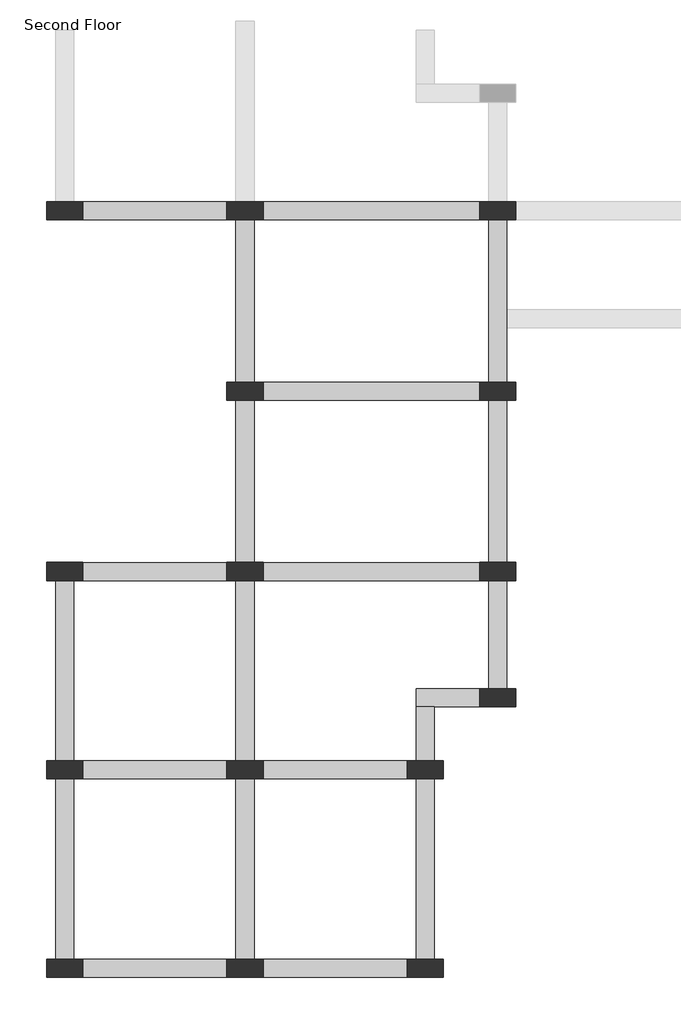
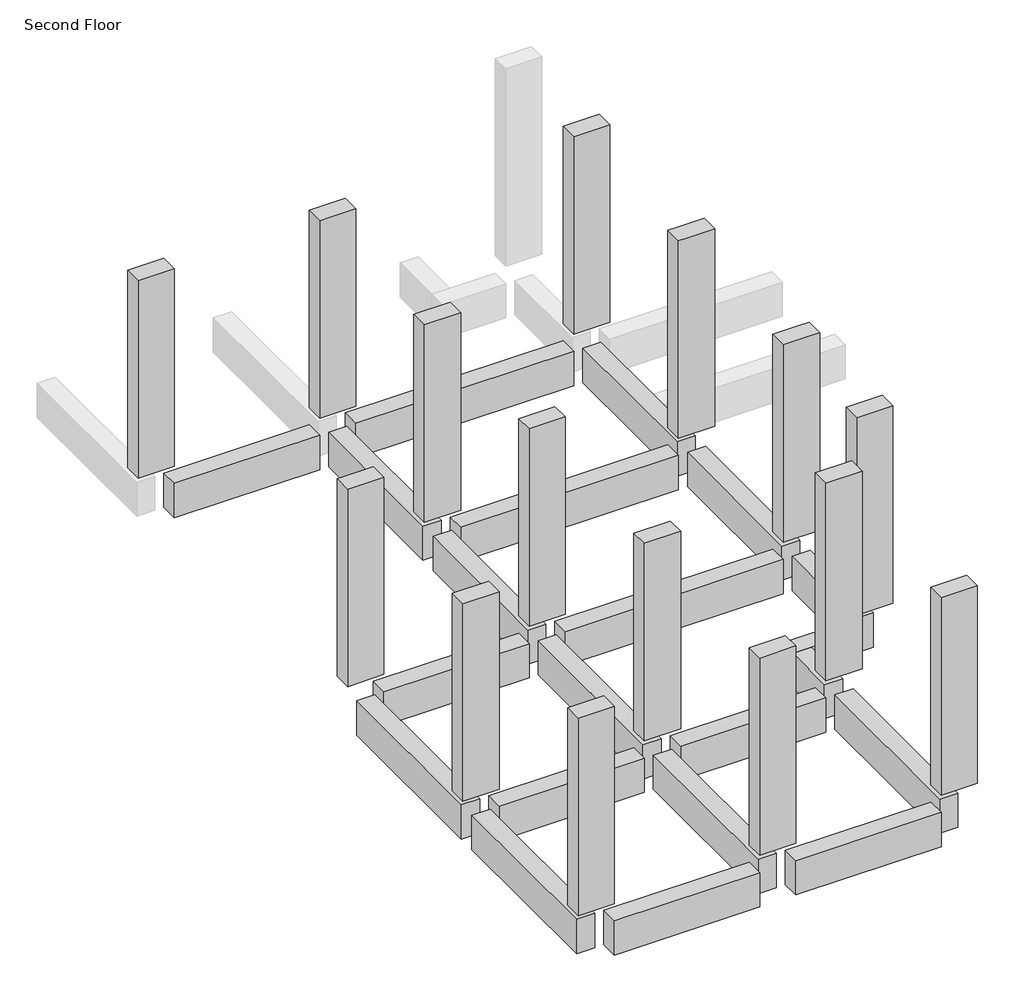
# One storey, part 1 of 2: 21 beams, 17 columns.
"""IFC4 building model written with IfcOpenShell, lengths in millimetres."""

from ifc_helpers import new_model, si_unit, frame, origin, place, context, project, spatial, polyline, outline, extrude, faceted_brep, element, save

model = new_model("IFC4")

# Units and contexts
model_context = context("Model", 3, world=origin())
ifc_project = project(units=[si_unit("LENGTHUNIT", "METRE", prefix="MILLI")], contexts=[model_context])

# Site, building, storey
site = spatial("IfcSite", under=ifc_project)
building = spatial("IfcBuilding", under=site)
storey = spatial("IfcBuildingStorey", under=building, Name="Second Floor", Elevation=3810.0)

# Beams
placement = place(None, origin())
element("IfcBeam", 1, ObjectType="Concrete-Rectangular Beam : 12 x 24", at=placement, inside=storey, context=model_context, shape_type="Brep", body=[
    faceted_brep([(-7905.1554735, 7484.1867088, 3505.2), (-8209.9554735, 7484.1867088, 3505.2), (-8209.9554735, 4740.9867088, 3505.2), (-7905.1554735, 4740.9867088, 3505.2), (-7905.1554735, 5655.3867088, 3505.2), (-7905.1554735, 5960.1867088, 3505.2), (-8209.9554735, 7484.1867088, 2895.6), (-8209.9554735, 4740.9867088, 2895.6), (-7905.1554735, 7484.1867088, 2895.6), (-7905.1554735, 5960.1867088, 2895.6), (-7905.1554735, 5655.3867088, 2895.6), (-7905.1554735, 4740.9867088, 2895.6)], [[[0, 1, 2, 3, 4, 5]], [[1, 6, 7, 2]], [[6, 8, 9, 10, 11, 7]], [[8, 0, 5, 4, 3, 11, 10, 9]], [[6, 1, 0, 8]], [[3, 2, 7, 11]]]),
])
element("IfcBeam", 2, ObjectType="Concrete-Rectangular Beam : 12 x 24", at=placement, inside=storey, context=model_context, shape_type="SweptSolid", body=[
    extrude(outline(polyline([(-8209.9554735, 4436.1867088), (-7905.1554735, 4436.1867088), (-7905.1554735, 1692.9867088), (-8209.9554735, 1692.9867088), (-8209.9554735, 4436.1867088)])), frame((0.0, 0.0, 2895.6), z_axis=(0.0, 0.0, 1.0), x_axis=(1.0, 0.0, 0.0)), (0.0, 0.0, 1.0), 609.6),
])
element("IfcBeam", 3, ObjectType="Concrete-Rectangular Beam : 12 x 24", at=placement, inside=storey, context=model_context, shape_type="SweptSolid", body=[
    extrude(outline(polyline([(-8209.9554735, 1388.1867088), (-7905.1554735, 1388.1867088), (-7905.1554735, -440.6132912), (-8209.9554735, -440.6132912), (-8209.9554735, 1388.1867088)])), frame((0.0, 0.0, 2895.6), z_axis=(0.0, 0.0, 1.0), x_axis=(1.0, 0.0, 0.0)), (0.0, 0.0, 1.0), 609.6),
])
element("IfcBeam", 4, ObjectType="Concrete-Rectangular Beam : 12 x 24", at=placement, inside=storey, context=model_context, shape_type="Brep", body=[
    faceted_brep([(-9429.1554735, -440.6132912, 3505.2), (-9429.1554735, -745.4132912, 3505.2), (-9124.3554735, -745.4132912, 3505.2), (-8362.3554735, -745.4132912, 3505.2), (-8362.3554735, -440.6132912, 3505.2), (-9429.1554735, -440.6132912, 2895.6), (-8362.3554735, -440.6132912, 2895.6), (-9429.1554735, -745.4132912, 2895.6), (-8362.3554735, -745.4132912, 2895.6), (-9124.3554735, -745.4132912, 2895.6)], [[[0, 1, 2, 3, 4]], [[5, 0, 4, 6]], [[7, 5, 6, 8, 9]], [[1, 7, 9, 8, 3, 2]], [[4, 3, 8, 6]], [[1, 0, 5, 7]]]),
])
element("IfcBeam", 5, ObjectType="Concrete-Rectangular Beam : 12 x 24", at=placement, inside=storey, context=model_context, shape_type="SweptSolid", body=[
    extrude(outline(polyline([(-9429.1554735, -745.4132912), (-9124.3554735, -745.4132912), (-9124.3554735, -1659.8132912), (-9429.1554735, -1659.8132912), (-9429.1554735, -745.4132912)])), frame((0.0, 0.0, 2895.6), z_axis=(0.0, 0.0, 1.0), x_axis=(1.0, 0.0, 0.0)), (0.0, 0.0, 1.0), 609.6),
])
element("IfcBeam", 6, ObjectType="Concrete-Rectangular Beam : 12 x 24", at=placement, inside=storey, context=model_context, shape_type="SweptSolid", body=[
    extrude(outline(polyline([(-9429.1554735, -1964.6132912), (-9124.3554735, -1964.6132912), (-9124.3554735, -5012.6132912), (-9429.1554735, -5012.6132912), (-9429.1554735, -1964.6132912)])), frame((0.0, 0.0, 2895.6), z_axis=(0.0, 0.0, 1.0), x_axis=(1.0, 0.0, 0.0)), (0.0, 0.0, 1.0), 609.6),
])
element("IfcBeam", 7, ObjectType="Concrete-Rectangular Beam : 12 x 24", at=placement, inside=storey, context=model_context, shape_type="SweptSolid", body=[
    extrude(outline(polyline([(-12019.9554735, -5317.4132912), (-12019.9554735, -5012.6132912), (-9581.5554735, -5012.6132912), (-9581.5554735, -5317.4132912), (-12019.9554735, -5317.4132912)])), frame((0.0, 0.0, 2895.6), z_axis=(0.0, 0.0, 1.0), x_axis=(1.0, 0.0, 0.0)), (0.0, 0.0, 1.0), 609.6),
])
element("IfcBeam", 8, ObjectType="Concrete-Rectangular Beam : 12 x 24", at=placement, inside=storey, context=model_context, shape_type="SweptSolid", body=[
    extrude(outline(polyline([(-12629.5554735, -5012.6132912), (-12629.5554735, -5317.4132912), (-15067.9554735, -5317.4132912), (-15067.9554735, -5012.6132912), (-12629.5554735, -5012.6132912)])), frame((0.0, 0.0, 2895.6), z_axis=(0.0, 0.0, 1.0), x_axis=(1.0, 0.0, 0.0)), (0.0, 0.0, 1.0), 609.6),
])
element("IfcBeam", 9, ObjectType="Concrete-Rectangular Beam : 12 x 24", at=placement, inside=storey, context=model_context, shape_type="SweptSolid", body=[
    extrude(outline(polyline([(-15220.3554735, -5012.6132912), (-15525.1554735, -5012.6132912), (-15525.1554735, -1964.6132912), (-15220.3554735, -1964.6132912), (-15220.3554735, -5012.6132912)])), frame((0.0, 0.0, 2895.6), z_axis=(0.0, 0.0, 1.0), x_axis=(1.0, 0.0, 0.0)), (0.0, 0.0, 1.0), 609.6),
])
element("IfcBeam", 10, ObjectType="Concrete-Rectangular Beam : 12 x 24", at=placement, inside=storey, context=model_context, shape_type="SweptSolid", body=[
    extrude(outline(polyline([(-15220.3554735, -1659.8132912), (-15525.1554735, -1659.8132912), (-15525.1554735, 1388.1867088), (-15220.3554735, 1388.1867088), (-15220.3554735, -1659.8132912)])), frame((0.0, 0.0, 2895.6), z_axis=(0.0, 0.0, 1.0), x_axis=(1.0, 0.0, 0.0)), (0.0, 0.0, 1.0), 609.6),
])
element("IfcBeam", 11, ObjectType="Concrete-Rectangular Beam : 12 x 24", at=placement, inside=storey, context=model_context, shape_type="SweptSolid", body=[
    extrude(outline(polyline([(-12477.1554735, 7484.1867088), (-12172.3554735, 7484.1867088), (-12172.3554735, 4740.9867088), (-12477.1554735, 4740.9867088), (-12477.1554735, 7484.1867088)])), frame((0.0, 0.0, 2895.6), z_axis=(0.0, 0.0, 1.0), x_axis=(1.0, 0.0, 0.0)), (0.0, 0.0, 1.0), 609.6),
])
element("IfcBeam", 12, ObjectType="Concrete-Rectangular Beam : 12 x 24", at=placement, inside=storey, context=model_context, shape_type="SweptSolid", body=[
    extrude(outline(polyline([(-12477.1554735, 4436.1867088), (-12172.3554735, 4436.1867088), (-12172.3554735, 1692.9867088), (-12477.1554735, 1692.9867088), (-12477.1554735, 4436.1867088)])), frame((0.0, 0.0, 2895.6), z_axis=(0.0, 0.0, 1.0), x_axis=(1.0, 0.0, 0.0)), (0.0, 0.0, 1.0), 609.6),
])
element("IfcBeam", 13, ObjectType="Concrete-Rectangular Beam : 12 x 24", at=placement, inside=storey, context=model_context, shape_type="SweptSolid", body=[
    extrude(outline(polyline([(-12477.1554735, 1388.1867088), (-12172.3554735, 1388.1867088), (-12172.3554735, -1659.8132912), (-12477.1554735, -1659.8132912), (-12477.1554735, 1388.1867088)])), frame((0.0, 0.0, 2895.6), z_axis=(0.0, 0.0, 1.0), x_axis=(1.0, 0.0, 0.0)), (0.0, 0.0, 1.0), 609.6),
])
element("IfcBeam", 14, ObjectType="Concrete-Rectangular Beam : 12 x 24", at=placement, inside=storey, context=model_context, shape_type="SweptSolid", body=[
    extrude(outline(polyline([(-12172.3554735, -5012.6132912), (-12477.1554735, -5012.6132912), (-12477.1554735, -1964.6132912), (-12172.3554735, -1964.6132912), (-12172.3554735, -5012.6132912)])), frame((0.0, 0.0, 2895.6), z_axis=(0.0, 0.0, 1.0), x_axis=(1.0, 0.0, 0.0)), (0.0, 0.0, 1.0), 609.6),
])
element("IfcBeam", 15, ObjectType="Concrete-Rectangular Beam : 12 x 24", at=placement, inside=storey, context=model_context, shape_type="SweptSolid", body=[
    extrude(outline(polyline([(-15067.9554735, 7484.1867088), (-15067.9554735, 7788.9867088), (-12629.5554735, 7788.9867088), (-12629.5554735, 7484.1867088), (-15067.9554735, 7484.1867088)])), frame((0.0, 0.0, 2895.6), z_axis=(0.0, 0.0, 1.0), x_axis=(1.0, 0.0, 0.0)), (0.0, 0.0, 1.0), 609.6),
])
element("IfcBeam", 16, ObjectType="Concrete-Rectangular Beam : 12 x 24", at=placement, inside=storey, context=model_context, shape_type="SweptSolid", body=[
    extrude(outline(polyline([(-12019.9554735, 1388.1867088), (-12019.9554735, 1692.9867088), (-8362.3554735, 1692.9867088), (-8362.3554735, 1388.1867088), (-12019.9554735, 1388.1867088)])), frame((0.0, 0.0, 2895.6), z_axis=(0.0, 0.0, 1.0), x_axis=(1.0, 0.0, 0.0)), (0.0, 0.0, 1.0), 609.6),
])
element("IfcBeam", 17, ObjectType="Concrete-Rectangular Beam : 12 x 24", at=placement, inside=storey, context=model_context, shape_type="SweptSolid", body=[
    extrude(outline(polyline([(-12629.5554735, -1659.8132912), (-12629.5554735, -1964.6132912), (-15067.9554735, -1964.6132912), (-15067.9554735, -1659.8132912), (-12629.5554735, -1659.8132912)])), frame((0.0, 0.0, 2895.6), z_axis=(0.0, 0.0, 1.0), x_axis=(1.0, 0.0, 0.0)), (0.0, 0.0, 1.0), 609.6),
])
element("IfcBeam", 18, ObjectType="Concrete-Rectangular Beam : 12 x 24", at=placement, inside=storey, context=model_context, shape_type="SweptSolid", body=[
    extrude(outline(polyline([(-12629.5554735, 1692.9867088), (-12629.5554735, 1388.1867088), (-15067.9554735, 1388.1867088), (-15067.9554735, 1692.9867088), (-12629.5554735, 1692.9867088)])), frame((0.0, 0.0, 2895.6), z_axis=(0.0, 0.0, 1.0), x_axis=(1.0, 0.0, 0.0)), (0.0, 0.0, 1.0), 609.6),
])
element("IfcBeam", 19, ObjectType="Concrete-Rectangular Beam : 12 x 24", at=placement, inside=storey, context=model_context, shape_type="SweptSolid", body=[
    extrude(outline(polyline([(-12019.9554735, -1964.6132912), (-12019.9554735, -1659.8132912), (-9581.5554735, -1659.8132912), (-9581.5554735, -1964.6132912), (-12019.9554735, -1964.6132912)])), frame((0.0, 0.0, 2895.6), z_axis=(0.0, 0.0, 1.0), x_axis=(1.0, 0.0, 0.0)), (0.0, 0.0, 1.0), 609.6),
])
element("IfcBeam", 20, ObjectType="Concrete-Rectangular Beam : 12 x 24", at=placement, inside=storey, context=model_context, shape_type="SweptSolid", body=[
    extrude(outline(polyline([(-8362.3554735, 7788.9867088), (-8362.3554735, 7484.1867088), (-12019.9554735, 7484.1867088), (-12019.9554735, 7788.9867088), (-8362.3554735, 7788.9867088)])), frame((0.0, 0.0, 2895.6), z_axis=(0.0, 0.0, 1.0), x_axis=(1.0, 0.0, 0.0)), (0.0, 0.0, 1.0), 609.6),
])
element("IfcBeam", 21, ObjectType="Concrete-Rectangular Beam : 12 x 24", at=placement, inside=storey, context=model_context, shape_type="SweptSolid", body=[
    extrude(outline(polyline([(-12019.9554735, 4436.1867088), (-12019.9554735, 4740.9867088), (-8362.3554735, 4740.9867088), (-8362.3554735, 4436.1867088), (-12019.9554735, 4436.1867088)])), frame((0.0, 0.0, 2895.6), z_axis=(0.0, 0.0, 1.0), x_axis=(1.0, 0.0, 0.0)), (0.0, 0.0, 1.0), 609.6),
])

# Columns
element("IfcColumn", 22, ObjectType="Concrete-Rectangular-Column : 12 x 24", at=placement, inside=storey, context=model_context, shape_type="Brep", body=[
    faceted_brep([(-8362.3554735, 7788.9867088, 3810.0), (-7752.7554735, 7788.9867088, 3810.0), (-7752.7554735, 7484.1867088, 3810.0), (-8362.3554735, 7484.1867088, 3810.0), (-8362.3554735, 7788.9867088, 7315.2), (-8209.9554735, 7788.9867088, 7315.2), (-7905.1554735, 7788.9867088, 7315.2), (-7752.7554735, 7788.9867088, 7315.2), (-7752.7554735, 7788.9867088, 6705.6), (-8362.3554735, 7788.9867088, 6705.6), (-7752.7554735, 7484.1867088, 7315.2), (-7752.7554735, 7484.1867088, 6705.6), (-7905.1554735, 7484.1867088, 7315.2), (-8209.9554735, 7484.1867088, 7315.2), (-8362.3554735, 7484.1867088, 7315.2), (-8362.3554735, 7484.1867088, 6705.6)], [[[0, 1, 2, 3]], [[4, 5, 6, 7, 8, 1, 0, 9]], [[7, 10, 11, 2, 1, 8]], [[10, 12, 13, 14, 15, 3, 2, 11]], [[14, 4, 9, 0, 3, 15]], [[4, 14, 13, 12, 10, 7, 6, 5]]]),
])
element("IfcColumn", 23, ObjectType="Concrete-Rectangular-Column : 12 x 24", at=placement, inside=storey, context=model_context, shape_type="Brep", body=[
    faceted_brep([(-15677.5554735, 7788.9867088, 3810.0), (-15067.9554735, 7788.9867088, 3810.0), (-15067.9554735, 7484.1867088, 3810.0), (-15677.5554735, 7484.1867088, 3810.0), (-15677.5554735, 7788.9867088, 7315.2), (-15525.1554735, 7788.9867088, 7315.2), (-15220.3554735, 7788.9867088, 7315.2), (-15067.9554735, 7788.9867088, 7315.2), (-15067.9554735, 7788.9867088, 6705.6), (-15067.9554735, 7484.1867088, 7315.2), (-15067.9554735, 7484.1867088, 6705.6), (-15677.5554735, 7484.1867088, 7315.2)], [[[0, 1, 2, 3]], [[4, 5, 6, 7, 8, 1, 0]], [[7, 9, 10, 2, 1, 8]], [[9, 11, 3, 2, 10]], [[11, 4, 0, 3]], [[4, 11, 9, 7, 6, 5]]]),
])
element("IfcColumn", 24, ObjectType="Concrete-Rectangular-Column : 12 x 24", at=placement, inside=storey, context=model_context, shape_type="Brep", body=[
    faceted_brep([(-12629.5554735, 7788.9867088, 3810.0), (-12019.9554735, 7788.9867088, 3810.0), (-12019.9554735, 7484.1867088, 3810.0), (-12629.5554735, 7484.1867088, 3810.0), (-12629.5554735, 7788.9867088, 7315.2), (-12477.1554735, 7788.9867088, 7315.2), (-12172.3554735, 7788.9867088, 7315.2), (-12019.9554735, 7788.9867088, 7315.2), (-12019.9554735, 7788.9867088, 6705.6), (-12629.5554735, 7788.9867088, 6705.6), (-12019.9554735, 7484.1867088, 7315.2), (-12019.9554735, 7484.1867088, 6705.6), (-12172.3554735, 7484.1867088, 7315.2), (-12477.1554735, 7484.1867088, 7315.2), (-12629.5554735, 7484.1867088, 7315.2), (-12629.5554735, 7484.1867088, 6705.6)], [[[0, 1, 2, 3]], [[4, 5, 6, 7, 8, 1, 0, 9]], [[7, 10, 11, 2, 1, 8]], [[10, 12, 13, 14, 15, 3, 2, 11]], [[14, 4, 9, 0, 3, 15]], [[4, 14, 13, 12, 10, 7, 6, 5]]]),
])
element("IfcColumn", 25, ObjectType="Concrete-Rectangular-Column : 12 x 24", at=placement, inside=storey, context=model_context, shape_type="Brep", body=[
    faceted_brep([(-12629.5554735, 4740.9867088, 3810.0), (-12019.9554735, 4740.9867088, 3810.0), (-12019.9554735, 4436.1867088, 3810.0), (-12629.5554735, 4436.1867088, 3810.0), (-12629.5554735, 4740.9867088, 7315.2), (-12477.1554735, 4740.9867088, 7315.2), (-12172.3554735, 4740.9867088, 7315.2), (-12019.9554735, 4740.9867088, 7315.2), (-12019.9554735, 4740.9867088, 6705.6), (-12019.9554735, 4436.1867088, 7315.2), (-12019.9554735, 4436.1867088, 6705.6), (-12172.3554735, 4436.1867088, 7315.2), (-12477.1554735, 4436.1867088, 7315.2), (-12629.5554735, 4436.1867088, 7315.2)], [[[0, 1, 2, 3]], [[4, 5, 6, 7, 8, 1, 0]], [[7, 9, 10, 2, 1, 8]], [[9, 11, 12, 13, 3, 2, 10]], [[13, 4, 0, 3]], [[4, 13, 12, 11, 9, 7, 6, 5]]]),
])
element("IfcColumn", 26, ObjectType="Concrete-Rectangular-Column : 12 x 24", at=placement, inside=storey, context=model_context, shape_type="Brep", body=[
    faceted_brep([(-12629.5554735, 1692.9867088, 3810.0), (-12019.9554735, 1692.9867088, 3810.0), (-12019.9554735, 1388.1867088, 3810.0), (-12629.5554735, 1388.1867088, 3810.0), (-12629.5554735, 1692.9867088, 7315.2), (-12477.1554735, 1692.9867088, 7315.2), (-12172.3554735, 1692.9867088, 7315.2), (-12019.9554735, 1692.9867088, 7315.2), (-12019.9554735, 1692.9867088, 6705.6), (-12629.5554735, 1692.9867088, 6705.6), (-12019.9554735, 1388.1867088, 7315.2), (-12019.9554735, 1388.1867088, 6705.6), (-12172.3554735, 1388.1867088, 7315.2), (-12477.1554735, 1388.1867088, 7315.2), (-12629.5554735, 1388.1867088, 7315.2), (-12629.5554735, 1388.1867088, 6705.6)], [[[0, 1, 2, 3]], [[4, 5, 6, 7, 8, 1, 0, 9]], [[7, 10, 11, 2, 1, 8]], [[10, 12, 13, 14, 15, 3, 2, 11]], [[14, 4, 9, 0, 3, 15]], [[4, 14, 13, 12, 10, 7, 6, 5]]]),
])
element("IfcColumn", 27, ObjectType="Concrete-Rectangular-Column : 12 x 24", at=placement, inside=storey, context=model_context, shape_type="Brep", body=[
    faceted_brep([(-12629.5554735, -1659.8132912, 3810.0), (-12019.9554735, -1659.8132912, 3810.0), (-12019.9554735, -1964.6132912, 3810.0), (-12629.5554735, -1964.6132912, 3810.0), (-12629.5554735, -1659.8132912, 7315.2), (-12477.1554735, -1659.8132912, 7315.2), (-12172.3554735, -1659.8132912, 7315.2), (-12019.9554735, -1659.8132912, 7315.2), (-12019.9554735, -1659.8132912, 6705.6), (-12629.5554735, -1659.8132912, 6705.6), (-12019.9554735, -1964.6132912, 7315.2), (-12019.9554735, -1964.6132912, 6705.6), (-12172.3554735, -1964.6132912, 7315.2), (-12477.1554735, -1964.6132912, 7315.2), (-12629.5554735, -1964.6132912, 7315.2), (-12629.5554735, -1964.6132912, 6705.6)], [[[0, 1, 2, 3]], [[4, 5, 6, 7, 8, 1, 0, 9]], [[7, 10, 11, 2, 1, 8]], [[10, 12, 13, 14, 15, 3, 2, 11]], [[14, 4, 9, 0, 3, 15]], [[4, 14, 13, 12, 10, 7, 6, 5]]]),
])
element("IfcColumn", 28, ObjectType="Concrete-Rectangular-Column : 12 x 24", at=placement, inside=storey, context=model_context, shape_type="Brep", body=[
    faceted_brep([(-12629.5554735, -5012.6132912, 3810.0), (-12019.9554735, -5012.6132912, 3810.0), (-12019.9554735, -5317.4132912, 3810.0), (-12629.5554735, -5317.4132912, 3810.0), (-12629.5554735, -5012.6132912, 7315.2), (-12477.1554735, -5012.6132912, 7315.2), (-12172.3554735, -5012.6132912, 7315.2), (-12019.9554735, -5012.6132912, 7315.2), (-12019.9554735, -5012.6132912, 6705.6), (-12629.5554735, -5012.6132912, 6705.6), (-12019.9554735, -5317.4132912, 7315.2), (-12019.9554735, -5317.4132912, 6705.6), (-12629.5554735, -5317.4132912, 7315.2), (-12629.5554735, -5317.4132912, 6705.6)], [[[0, 1, 2, 3]], [[4, 5, 6, 7, 8, 1, 0, 9]], [[7, 10, 11, 2, 1, 8]], [[10, 12, 13, 3, 2, 11]], [[12, 4, 9, 0, 3, 13]], [[4, 12, 10, 7, 6, 5]]]),
])
element("IfcColumn", 29, ObjectType="Concrete-Rectangular-Column : 12 x 24", at=placement, inside=storey, context=model_context, shape_type="Brep", body=[
    faceted_brep([(-15677.5554735, -1659.8132912, 3810.0), (-15067.9554735, -1659.8132912, 3810.0), (-15067.9554735, -1964.6132912, 3810.0), (-15677.5554735, -1964.6132912, 3810.0), (-15677.5554735, -1659.8132912, 7315.2), (-15525.1554735, -1659.8132912, 7315.2), (-15220.3554735, -1659.8132912, 7315.2), (-15067.9554735, -1659.8132912, 7315.2), (-15067.9554735, -1659.8132912, 6705.6), (-15067.9554735, -1964.6132912, 7315.2), (-15067.9554735, -1964.6132912, 6705.6), (-15220.3554735, -1964.6132912, 7315.2), (-15525.1554735, -1964.6132912, 7315.2), (-15677.5554735, -1964.6132912, 7315.2)], [[[0, 1, 2, 3]], [[4, 5, 6, 7, 8, 1, 0]], [[7, 9, 10, 2, 1, 8]], [[9, 11, 12, 13, 3, 2, 10]], [[13, 4, 0, 3]], [[4, 13, 12, 11, 9, 7, 6, 5]]]),
])
element("IfcColumn", 30, ObjectType="Concrete-Rectangular-Column : 12 x 24", at=placement, inside=storey, context=model_context, shape_type="Brep", body=[
    faceted_brep([(-15677.5554735, -5012.6132912, 3810.0), (-15067.9554735, -5012.6132912, 3810.0), (-15067.9554735, -5317.4132912, 3810.0), (-15677.5554735, -5317.4132912, 3810.0), (-15677.5554735, -5012.6132912, 7315.2), (-15525.1554735, -5012.6132912, 7315.2), (-15220.3554735, -5012.6132912, 7315.2), (-15067.9554735, -5012.6132912, 7315.2), (-15067.9554735, -5012.6132912, 6705.6), (-15067.9554735, -5317.4132912, 7315.2), (-15067.9554735, -5317.4132912, 6705.6), (-15677.5554735, -5317.4132912, 7315.2)], [[[0, 1, 2, 3]], [[4, 5, 6, 7, 8, 1, 0]], [[7, 9, 10, 2, 1, 8]], [[9, 11, 3, 2, 10]], [[11, 4, 0, 3]], [[4, 11, 9, 7, 6, 5]]]),
])
element("IfcColumn", 31, ObjectType="Concrete-Rectangular-Column : 12 x 24", at=placement, inside=storey, context=model_context, shape_type="Brep", body=[
    faceted_brep([(-15677.5554735, 1692.9867088, 3810.0), (-15067.9554735, 1692.9867088, 3810.0), (-15067.9554735, 1388.1867088, 3810.0), (-15677.5554735, 1388.1867088, 3810.0), (-15677.5554735, 1692.9867088, 7315.2), (-15067.9554735, 1692.9867088, 7315.2), (-15067.9554735, 1692.9867088, 6705.6), (-15067.9554735, 1388.1867088, 7315.2), (-15067.9554735, 1388.1867088, 6705.6), (-15220.3554735, 1388.1867088, 7315.2), (-15525.1554735, 1388.1867088, 7315.2), (-15677.5554735, 1388.1867088, 7315.2)], [[[0, 1, 2, 3]], [[4, 5, 6, 1, 0]], [[5, 7, 8, 2, 1, 6]], [[7, 9, 10, 11, 3, 2, 8]], [[11, 4, 0, 3]], [[4, 11, 10, 9, 7, 5]]]),
])
element("IfcColumn", 32, ObjectType="Concrete-Rectangular-Column : 12 x 24", at=placement, inside=storey, context=model_context, shape_type="Brep", body=[
    faceted_brep([(-8362.3554735, 4740.9867088, 3810.0), (-7752.7554735, 4740.9867088, 3810.0), (-7752.7554735, 4436.1867088, 3810.0), (-8362.3554735, 4436.1867088, 3810.0), (-8362.3554735, 4740.9867088, 7315.2), (-8209.9554735, 4740.9867088, 7315.2), (-7905.1554735, 4740.9867088, 7315.2), (-7752.7554735, 4740.9867088, 7315.2), (-8362.3554735, 4740.9867088, 6705.6), (-7752.7554735, 4436.1867088, 7315.2), (-7905.1554735, 4436.1867088, 7315.2), (-8209.9554735, 4436.1867088, 7315.2), (-8362.3554735, 4436.1867088, 7315.2), (-8362.3554735, 4436.1867088, 6705.6)], [[[0, 1, 2, 3]], [[4, 5, 6, 7, 1, 0, 8]], [[7, 9, 2, 1]], [[9, 10, 11, 12, 13, 3, 2]], [[12, 4, 8, 0, 3, 13]], [[4, 12, 11, 10, 9, 7, 6, 5]]]),
])
element("IfcColumn", 33, ObjectType="Concrete-Rectangular-Column : 12 x 24", at=placement, inside=storey, context=model_context, shape_type="Brep", body=[
    faceted_brep([(-8362.3554735, 1692.9867088, 3810.0), (-7752.7554735, 1692.9867088, 3810.0), (-7752.7554735, 1388.1867088, 3810.0), (-8362.3554735, 1388.1867088, 3810.0), (-8362.3554735, 1692.9867088, 7315.2), (-8209.9554735, 1692.9867088, 7315.2), (-7905.1554735, 1692.9867088, 7315.2), (-7752.7554735, 1692.9867088, 7315.2), (-8362.3554735, 1692.9867088, 6705.6), (-7752.7554735, 1388.1867088, 7315.2), (-7905.1554735, 1388.1867088, 7315.2), (-8209.9554735, 1388.1867088, 7315.2), (-8362.3554735, 1388.1867088, 7315.2), (-8362.3554735, 1388.1867088, 6705.6)], [[[0, 1, 2, 3]], [[4, 5, 6, 7, 1, 0, 8]], [[7, 9, 2, 1]], [[9, 10, 11, 12, 13, 3, 2]], [[12, 4, 8, 0, 3, 13]], [[4, 12, 11, 10, 9, 7, 6, 5]]]),
])
element("IfcColumn", 34, ObjectType="Concrete-Rectangular-Column : 12 x 24", at=placement, inside=storey, context=model_context, shape_type="Brep", body=[
    faceted_brep([(-9581.5554735, -1659.8132912, 3810.0), (-8971.9554735, -1659.8132912, 3810.0), (-8971.9554735, -1964.6132912, 3810.0), (-9581.5554735, -1964.6132912, 3810.0), (-9581.5554735, -1659.8132912, 7315.2), (-9429.1554735, -1659.8132912, 7315.2), (-9124.3554735, -1659.8132912, 7315.2), (-8971.9554735, -1659.8132912, 7315.2), (-9581.5554735, -1659.8132912, 6705.6), (-8971.9554735, -1964.6132912, 7315.2), (-9124.3554735, -1964.6132912, 7315.2), (-9429.1554735, -1964.6132912, 7315.2), (-9581.5554735, -1964.6132912, 7315.2), (-9581.5554735, -1964.6132912, 6705.6)], [[[0, 1, 2, 3]], [[4, 5, 6, 7, 1, 0, 8]], [[7, 9, 2, 1]], [[9, 10, 11, 12, 13, 3, 2]], [[12, 4, 8, 0, 3, 13]], [[4, 12, 11, 10, 9, 7, 6, 5]]]),
])
element("IfcColumn", 35, ObjectType="Concrete-Rectangular-Column : 12 x 24", at=placement, inside=storey, context=model_context, shape_type="Brep", body=[
    faceted_brep([(-9581.5554735, -5012.6132912, 3810.0), (-8971.9554735, -5012.6132912, 3810.0), (-8971.9554735, -5317.4132912, 3810.0), (-9581.5554735, -5317.4132912, 3810.0), (-9581.5554735, -5012.6132912, 7315.2), (-9429.1554735, -5012.6132912, 7315.2), (-9124.3554735, -5012.6132912, 7315.2), (-8971.9554735, -5012.6132912, 7315.2), (-9581.5554735, -5012.6132912, 6705.6), (-8971.9554735, -5317.4132912, 7315.2), (-9581.5554735, -5317.4132912, 7315.2), (-9581.5554735, -5317.4132912, 6705.6)], [[[0, 1, 2, 3]], [[4, 5, 6, 7, 1, 0, 8]], [[7, 9, 2, 1]], [[9, 10, 11, 3, 2]], [[10, 4, 8, 0, 3, 11]], [[4, 10, 9, 7, 6, 5]]]),
])
element("IfcColumn", 36, ObjectType="Concrete-Rectangular-Column : 12 x 24", at=placement, inside=storey, context=model_context, shape_type="Brep", body=[
    faceted_brep([(-8362.3554735, -440.6132912, 3810.0), (-7752.7554735, -440.6132912, 3810.0), (-7752.7554735, -745.4132912, 3810.0), (-8362.3554735, -745.4132912, 3810.0), (-8362.3554735, -440.6132912, 7315.2), (-8209.9554735, -440.6132912, 7315.2), (-7905.1554735, -440.6132912, 7315.2), (-7752.7554735, -440.6132912, 7315.2), (-8362.3554735, -440.6132912, 6705.6), (-7752.7554735, -745.4132912, 7315.2), (-8362.3554735, -745.4132912, 7315.2), (-8362.3554735, -745.4132912, 6705.6)], [[[0, 1, 2, 3]], [[4, 5, 6, 7, 1, 0, 8]], [[7, 9, 2, 1]], [[9, 10, 11, 3, 2]], [[10, 4, 8, 0, 3, 11]], [[4, 10, 9, 7, 6, 5]]]),
])
element("IfcColumn", 37, ObjectType="Concrete-Rectangular-Column : 12 x 24", at=placement, inside=storey, context=model_context, shape_type="Brep", body=[
    faceted_brep([(-8362.3554735, 7788.9867088, 3810.0), (-7752.7554735, 7788.9867088, 3810.0), (-7752.7554735, 7484.1867088, 3810.0), (-8362.3554735, 7484.1867088, 3810.0), (-8362.3554735, 7788.9867088, 7315.2), (-8209.9554735, 7788.9867088, 7315.2), (-7905.1554735, 7788.9867088, 7315.2), (-7752.7554735, 7788.9867088, 7315.2), (-7752.7554735, 7788.9867088, 6705.6), (-8362.3554735, 7788.9867088, 6705.6), (-7752.7554735, 7484.1867088, 7315.2), (-7752.7554735, 7484.1867088, 6705.6), (-7905.1554735, 7484.1867088, 7315.2), (-8209.9554735, 7484.1867088, 7315.2), (-8362.3554735, 7484.1867088, 7315.2), (-8362.3554735, 7484.1867088, 6705.6)], [[[0, 1, 2, 3]], [[4, 5, 6, 7, 8, 1, 0, 9]], [[7, 10, 11, 2, 1, 8]], [[10, 12, 13, 14, 15, 3, 2, 11]], [[14, 4, 9, 0, 3, 15]], [[4, 14, 13, 12, 10, 7, 6, 5]]]),
])
element("IfcColumn", 38, ObjectType="Concrete-Rectangular-Column : 12 x 24", at=placement, inside=storey, context=model_context, shape_type="Brep", body=[
    faceted_brep([(-12629.5554735, 7788.9867088, 3810.0), (-12019.9554735, 7788.9867088, 3810.0), (-12019.9554735, 7484.1867088, 3810.0), (-12629.5554735, 7484.1867088, 3810.0), (-12629.5554735, 7788.9867088, 7315.2), (-12477.1554735, 7788.9867088, 7315.2), (-12172.3554735, 7788.9867088, 7315.2), (-12019.9554735, 7788.9867088, 7315.2), (-12019.9554735, 7788.9867088, 6705.6), (-12629.5554735, 7788.9867088, 6705.6), (-12019.9554735, 7484.1867088, 7315.2), (-12019.9554735, 7484.1867088, 6705.6), (-12172.3554735, 7484.1867088, 7315.2), (-12477.1554735, 7484.1867088, 7315.2), (-12629.5554735, 7484.1867088, 7315.2), (-12629.5554735, 7484.1867088, 6705.6)], [[[0, 1, 2, 3]], [[4, 5, 6, 7, 8, 1, 0, 9]], [[7, 10, 11, 2, 1, 8]], [[10, 12, 13, 14, 15, 3, 2, 11]], [[14, 4, 9, 0, 3, 15]], [[4, 14, 13, 12, 10, 7, 6, 5]]]),
])

save(model, "model.ifc")
